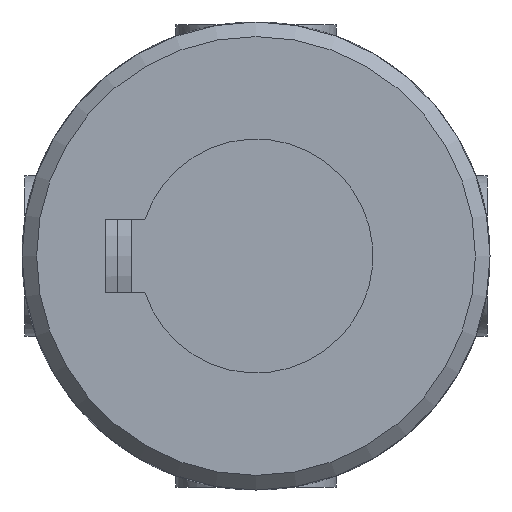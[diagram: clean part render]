
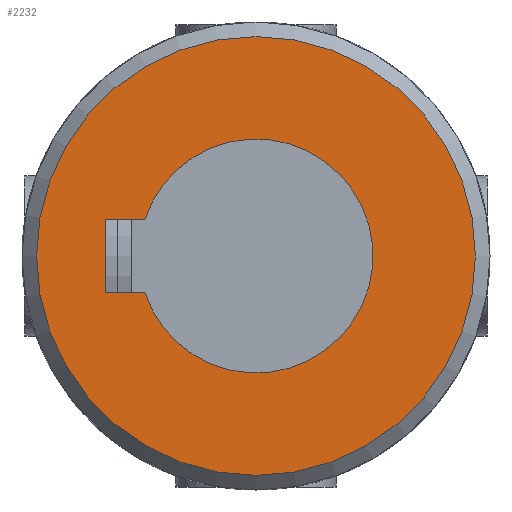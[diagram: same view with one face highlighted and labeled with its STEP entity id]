
A CAD part, front view. The second image highlights one B-rep face of the part: STEP entity #2232.
In plain terms, the highlighted planar face has unit normal (0, -1, 0).
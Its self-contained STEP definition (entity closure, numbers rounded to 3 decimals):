
#123=LINE('',#4083,#192);
#128=LINE('',#4100,#197);
#129=LINE('',#4109,#198);
#192=VECTOR('',#2905,2.701);
#197=VECTOR('',#2916,2.701);
#198=VECTOR('',#2919,5.);
#260=PLANE('',#2455);
#472=FACE_BOUND('',#757,.T.);
#575=FACE_OUTER_BOUND('',#756,.T.);
#756=EDGE_LOOP('',(#1855));
#757=EDGE_LOOP('',(#1856,#1857,#1858,#1859));
#901=CIRCLE('',#2443,8.);
#906=CIRCLE('',#2453,15.);
#1071=VERTEX_POINT('',#4072);
#1072=VERTEX_POINT('',#4074);
#1074=VERTEX_POINT('',#4082);
#1080=VERTEX_POINT('',#4098);
#1082=VERTEX_POINT('',#4115);
#1337=EDGE_CURVE('',#1072,#1071,#901,.T.);
#1340=EDGE_CURVE('',#1074,#1072,#123,.T.);
#1348=EDGE_CURVE('',#1071,#1080,#128,.T.);
#1350=EDGE_CURVE('',#1080,#1074,#129,.T.);
#1353=EDGE_CURVE('',#1082,#1082,#906,.T.);
#1855=ORIENTED_EDGE('',*,*,#1353,.F.);
#1856=ORIENTED_EDGE('',*,*,#1348,.T.);
#1857=ORIENTED_EDGE('',*,*,#1350,.T.);
#1858=ORIENTED_EDGE('',*,*,#1340,.T.);
#1859=ORIENTED_EDGE('',*,*,#1337,.T.);
#2232=ADVANCED_FACE('',(#575,#472),#260,.F.);
#2443=AXIS2_PLACEMENT_3D('',#4075,#2900,#2901);
#2453=AXIS2_PLACEMENT_3D('',#4116,#2928,#2929);
#2455=AXIS2_PLACEMENT_3D('',#4328,#2936,#2937);
#2900=DIRECTION('center_axis',(0.,1.,0.));
#2901=DIRECTION('ref_axis',(-0.313,0.,0.95));
#2905=DIRECTION('',(0.,0.,1.));
#2916=DIRECTION('',(0.,0.,-1.));
#2919=DIRECTION('',(-1.,0.,0.));
#2928=DIRECTION('center_axis',(0.,1.,0.));
#2929=DIRECTION('ref_axis',(1.,0.,0.));
#2936=DIRECTION('center_axis',(0.,1.,0.));
#2937=DIRECTION('ref_axis',(0.,0.,1.));
#4072=CARTESIAN_POINT('',(2.5,-42.,-7.599));
#4074=CARTESIAN_POINT('',(-2.5,-42.,-7.599));
#4075=CARTESIAN_POINT('Origin',(0.,-42.,0.));
#4082=CARTESIAN_POINT('',(-2.5,-42.,-10.3));
#4083=CARTESIAN_POINT('',(-2.5,-42.,-5.15));
#4098=CARTESIAN_POINT('',(2.5,-42.,-10.3));
#4100=CARTESIAN_POINT('',(2.5,-42.,-3.8));
#4109=CARTESIAN_POINT('',(1.25,-42.,-10.3));
#4115=CARTESIAN_POINT('',(-15.,-42.,0.));
#4116=CARTESIAN_POINT('Origin',(0.,-42.,0.));
#4328=CARTESIAN_POINT('Origin',(0.,-42.,0.));
